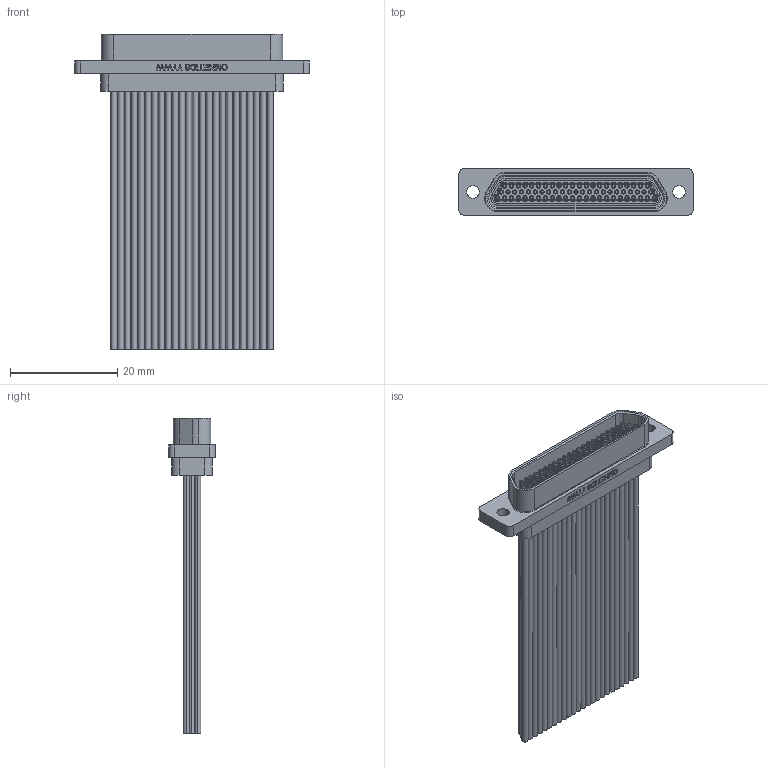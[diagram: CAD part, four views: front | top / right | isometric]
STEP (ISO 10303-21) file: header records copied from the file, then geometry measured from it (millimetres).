
FILE_DESCRIPTION (( 'STEP AP214' ), '1' );
FILE_NAME ('A99100-069 REV A.STEP', '2019-01-16T14:52:25', ( '' ), ( '' ), 'SwSTEP 2.0', 'SolidWorks 2018', '' );
FILE_SCHEMA (( 'AUTOMOTIVE_DESIGN' ));
Length unit declared in the file: inch
Products named in the file (1): A99100-069 REV A
Bounding box: 43.81 x 8.72 x 58.88 mm (x, y, z)
Volume: 5167.2 mm3; surface area: 16471.3 mm2
Topology: 1 solids, 142 shells, 2427 faces, 5139 edges, 3283 vertices
Faces by surface type: cylinder 1255, plane 726, torus 249, cone 143, bspline 54
Entity records: 69263 total; most frequent: CARTESIAN_POINT 13945, DIRECTION 12919, ORIENTED_EDGE 10266, AXIS2_PLACEMENT_3D 5519, EDGE_CURVE 5133, VERTEX_POINT 3283, CIRCLE 3145, EDGE_LOOP 3002
